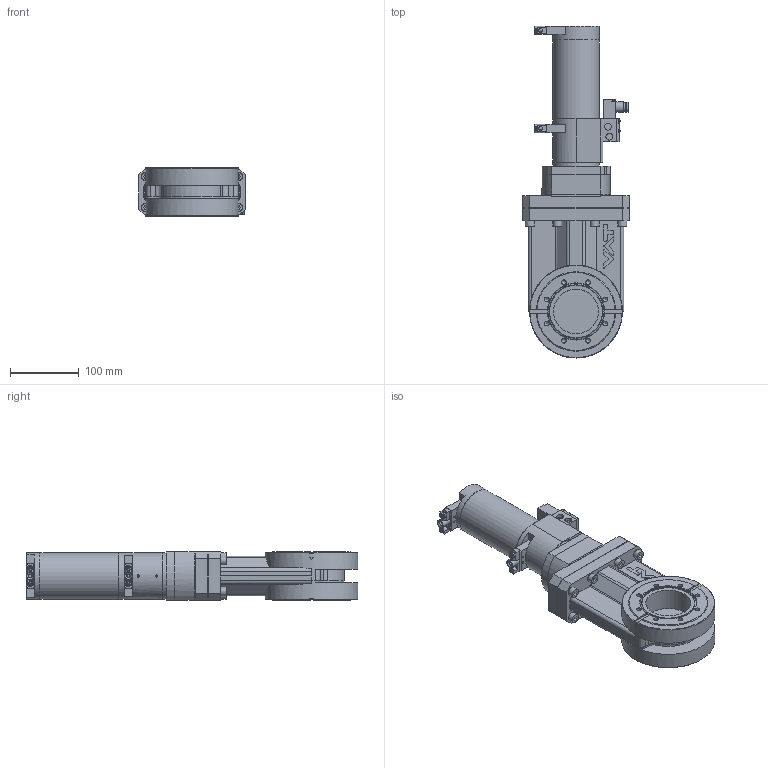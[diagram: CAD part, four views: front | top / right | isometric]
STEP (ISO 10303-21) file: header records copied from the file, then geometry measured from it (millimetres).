
FILE_DESCRIPTION(/* description */ (''),/* implementation_level */ '2;1');
FILE_NAME(/* name */ '1241355466_203.stp',/* time_stamp */ '2014-12-05T16:53:14+01:00',/* author */ (''),/* organization */ (''),/* preprocessor_version */ 'ST-DEVELOPER v11',/* originating_system */ 'SIEMENS PLM Software NX 7.5',/* authorisation */ '');
FILE_SCHEMA (('AP203_CONFIGURATION_CONTROLLED_3D_DESIGN_OF_MECHANICAL_PARTS_AND_ASSEMBLIES_MIM_LF'));
Length unit declared in the file: millimetre
Products named in the file (46): 92838-01_3.2; N-6121-032.2; 98926-01.1; 80477-01.1; N-7100-005_2.1; 92838-01_4.2; 80478-01.1; N-6195-007.2; 93115-01.1; 87105-01.1; 73662-01.1; 467882; 437235; 554399_19662ID; 555462; 438766_19676ID; 438766_19675ID; 550020; 549900; 84443-01.1; 83699-01.1; 83414-01.1; 77379-01.1; N-6016-478.2; N-7557-016_1.1; N-7557-018.1; N-7557-016_2.1; N-6024-524.1; N-5018-005.1; 545335; 555133_19670ID; 446990; 224837.1; 550117_MODEL; 87090-R1.22_NX-ARRAGMNTbetaetigt Hub 5mm max (mit Feder); 98926-R1.1; 87090-R1.22_NX-ARRAGMNTunbetaetigt Hub 0mm (mit Feder); 740266_NX-ARRAGMNTMassbild Ventil geschlossen; 78856-R1.3; 78855-r1.9_NX-ARRAGMNTMassbild, alle Innenteile unterdrueckt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
Assembly tree (68 placements, depth 4):
  776882
    555451_NX-ARRAGMNTGehäuse kpl Massbild
      555133_19670ID
      438729_MODELNX-ARRAGMNTGehäuseschale kpl bearbeitet
        438766_19675ID
        438766_19676ID
        555462
      545335  x2
      776837_MODEL
        554399_19662ID
    94800-r1.7_NX-ARRAGMNTKONFIG1
      N-5018-005.1  x2
      N-6024-524.1  x6
      N-7557-016_2.1
      N-7557-018.1
      N-7557-016_1.1
      N-7557-016_3.1_MODELNX-ARRAGMNTArrangement 1
        437235
        467882
    78855-r1.9_NX-ARRAGMNTMassbild, alle Innenteile unterdrueckt  x2
      N-6016-478.2
      78856-R1.3
        73662-01.1
      77379-01.1
    740266_NX-ARRAGMNTMassbild Ventil geschlossen
      83414-01.1  x2
      83699-01.1
      87090-R1.22_NX-ARRAGMNTunbetaetigt Hub 0mm (mit Feder)
        87105-01.1
        93115-01.1
        N-6195-007.2
        80478-01.1
        92838-01_4.2
        N-7100-005_2.1
        80477-01.1
      98926-R1.1
        98926-01.1
        N-6121-032.2
      87090-R1.22_NX-ARRAGMNTbetaetigt Hub 5mm max (mit Feder)
        87105-01.1
        93115-01.1
        N-6195-007.2
        80478-01.1
        N-7100-005_2.1
        80477-01.1
        92838-01_3.2
      84443-01.1
    224837.1  x8
    446990
    550117_MODEL
      549900
      550020
Bounding box: 155 x 482.32 x 70 mm (x, y, z)
Volume: 1554707.7 mm3; surface area: 445504.7 mm2
Topology: 76 solids, 76 shells, 1881 faces, 4828 edges, 3196 vertices
Faces by surface type: plane 1071, cylinder 539, cone 121, bspline 72, torus 42, extrusion 20, sphere 14, revolution 2
Full cylindrical faces by diameter (mm): 1.875 x2, 2.115 x8, 2.475 x6, 2.5 x6, 2.56 x2, 2.575 x2, 3 x16, 3.04 x4, 3.2 x2, 3.3 x5, 3.4 x4, 3.5 x13, 4 x2, 4.2 x3, 4.22 x1, 4.7 x4, 4.8 x1, 5 x3, 5.5 x3, 5.6 x2, 5.65 x2, 5.7 x2, 5.8 x4, 6 x9, 6.475 x2, 6.66 x8, 6.7 x8, 6.8 x22, 6.98 x2, 7 x9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
Entity records: 55090 total; most frequent: CARTESIAN_POINT 14993, DIRECTION 6531, ORIENTED_EDGE 6494, EDGE_CURVE 3247, AXIS2_PLACEMENT_3D 2439, VERTEX_POINT 2356, EDGE_LOOP 1884, VECTOR 1652
